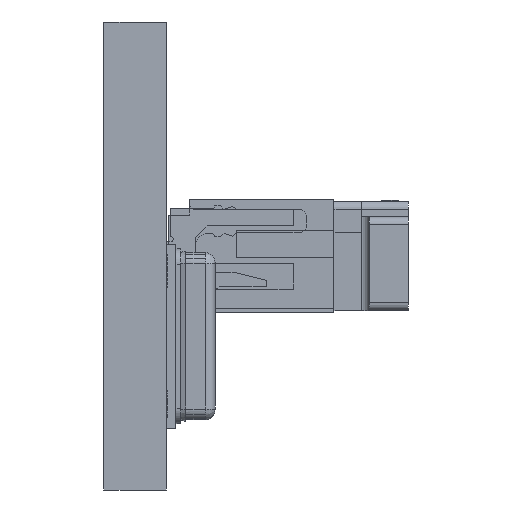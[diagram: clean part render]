
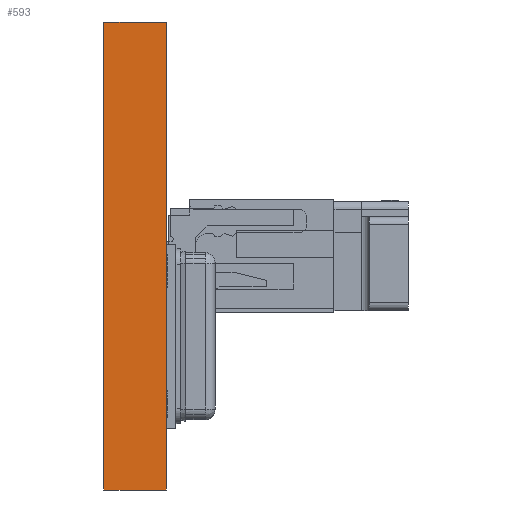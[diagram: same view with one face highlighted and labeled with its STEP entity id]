
A CAD part, left-side view. The second image highlights one B-rep face of the part: STEP entity #593.
In plain terms, the highlighted planar face has unit normal (-1, 0, 0).
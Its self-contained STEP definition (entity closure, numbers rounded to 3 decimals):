
#74=DIRECTION('',(0.,0.,1.));
#75=VECTOR('',#74,12.);
#76=CARTESIAN_POINT('',(-70.,0.,-7.));
#77=LINE('',#76,#75);
#150=DIRECTION('',(0.,0.,1.));
#151=VECTOR('',#150,12.);
#152=CARTESIAN_POINT('',(-70.,1.6,-7.));
#153=LINE('',#152,#151);
#210=DIRECTION('',(0.,1.,0.));
#211=VECTOR('',#210,1.6);
#212=CARTESIAN_POINT('',(-70.,0.,5.));
#213=LINE('',#212,#211);
#214=DIRECTION('',(0.,1.,0.));
#215=VECTOR('',#214,1.6);
#216=CARTESIAN_POINT('',(-70.,0.,-7.));
#217=LINE('',#216,#215);
#219=CARTESIAN_POINT('',(-70.,0.,-7.));
#221=VERTEX_POINT('',#219);
#223=CARTESIAN_POINT('',(-70.,1.6,-7.));
#225=VERTEX_POINT('',#223);
#274=CARTESIAN_POINT('',(-70.,0.,5.));
#276=VERTEX_POINT('',#274);
#278=CARTESIAN_POINT('',(-70.,1.6,5.));
#280=VERTEX_POINT('',#278);
#582=CARTESIAN_POINT('',(-70.,0.,-7.));
#583=DIRECTION('',(-1.,0.,0.));
#584=DIRECTION('',(0.,0.,1.));
#585=AXIS2_PLACEMENT_3D('',#582,#583,#584);
#586=PLANE('',#585);
#587=ORIENTED_EDGE('',*,*,#551,.F.);
#588=ORIENTED_EDGE('',*,*,#293,.F.);
#589=ORIENTED_EDGE('',*,*,#577,.T.);
#590=ORIENTED_EDGE('',*,*,#369,.T.);
#591=EDGE_LOOP('',(#587,#588,#589,#590));
#592=FACE_OUTER_BOUND('',#591,.F.);
#593=ADVANCED_FACE('',(#592),#586,.T.);
#293=EDGE_CURVE('',#221,#276,#77,.T.);
#369=EDGE_CURVE('',#225,#280,#153,.T.);
#551=EDGE_CURVE('',#276,#280,#213,.T.);
#577=EDGE_CURVE('',#221,#225,#217,.T.);
